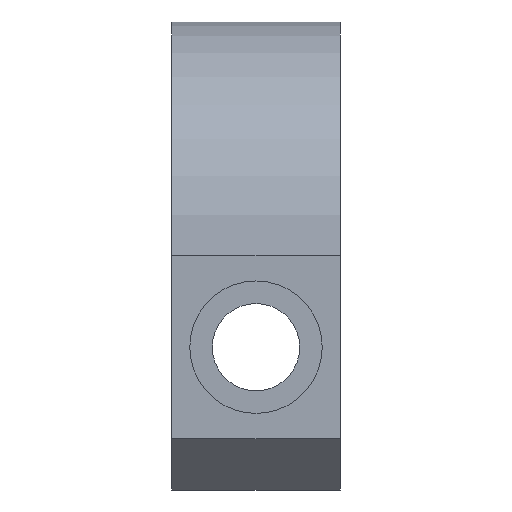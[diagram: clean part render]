
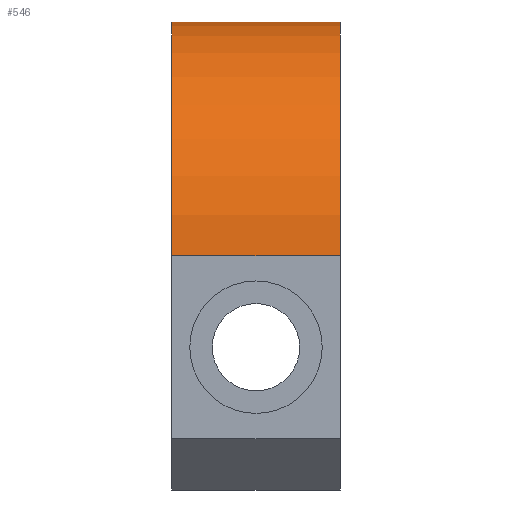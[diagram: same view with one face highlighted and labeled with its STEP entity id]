
A CAD part, left-side view. The second image highlights one B-rep face of the part: STEP entity #546.
In plain terms, the highlighted cylindrical face has radius 9.7 mm (diameter 19.4 mm), a partial arc.
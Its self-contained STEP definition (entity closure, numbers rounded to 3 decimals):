
#101=CARTESIAN_POINT('',(-15.628,246.448,53.315));
#102=VERTEX_POINT('',#101);
#109=CARTESIAN_POINT('',(-15.628,253.448,53.315));
#110=VERTEX_POINT('',#109);
#111=CARTESIAN_POINT('',(-15.628,246.448,53.315));
#112=DIRECTION('',(0.,1.,0.));
#113=VECTOR('',#112,7.);
#114=LINE('',#111,#113);
#115=EDGE_CURVE('',#102,#110,#114,.T.);
#139=CARTESIAN_POINT('',(-5.928,246.448,63.015));
#140=VERTEX_POINT('',#139);
#157=CARTESIAN_POINT('',(-5.928,253.448,63.015));
#158=VERTEX_POINT('',#157);
#165=CARTESIAN_POINT('',(-5.928,253.448,63.015));
#166=DIRECTION('',(-0.,-1.,-0.));
#167=VECTOR('',#166,7.);
#168=LINE('',#165,#167);
#169=EDGE_CURVE('',#158,#140,#168,.T.);
#381=CARTESIAN_POINT('',(-5.928,246.448,53.315));
#382=DIRECTION('',(-0.,-1.,-0.));
#383=DIRECTION('',(0.,-0.,1.));
#384=AXIS2_PLACEMENT_3D('',#381,#382,#383);
#385=CIRCLE('',#384,9.7);
#386=EDGE_CURVE('',#140,#102,#385,.T.);
#465=CARTESIAN_POINT('',(-5.928,253.448,53.315));
#466=DIRECTION('',(0.,1.,0.));
#467=DIRECTION('',(0.,-0.,1.));
#468=AXIS2_PLACEMENT_3D('',#465,#466,#467);
#469=CIRCLE('',#468,9.7);
#470=EDGE_CURVE('',#110,#158,#469,.T.);
#535=CARTESIAN_POINT('',(-5.928,246.448,53.315));
#536=DIRECTION('',(0.,1.,0.));
#537=DIRECTION('',(0.,-0.,1.));
#538=AXIS2_PLACEMENT_3D('',#535,#536,#537);
#539=CYLINDRICAL_SURFACE('',#538,9.7);
#540=ORIENTED_EDGE('',*,*,#386,.F.);
#541=ORIENTED_EDGE('',*,*,#169,.F.);
#542=ORIENTED_EDGE('',*,*,#470,.F.);
#543=ORIENTED_EDGE('',*,*,#115,.F.);
#544=EDGE_LOOP('',(#540,#541,#542,#543));
#545=FACE_BOUND('',#544,.T.);
#546=ADVANCED_FACE('',(#545),#539,.T.);
